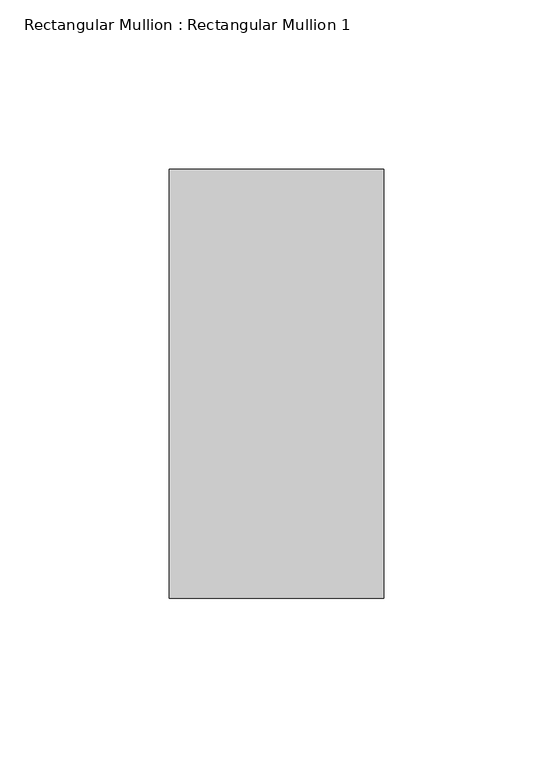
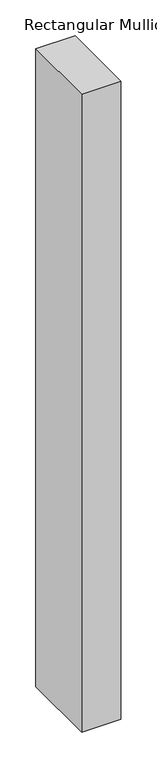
"""IFC4 building model written with IfcOpenShell, lengths in millimetres: member geometry, Rectangular Mullion : Rectangular Mullion 1."""

from ifc_helpers import new_model, si_unit, frame, origin, place, context, project, spatial, polyline, outline, extrude, source, transform, mapped, element, save


def rectangular_mullion_rectangular_mullion_1_fcad50a8(model_context):
    return source(origin(), model_context, "Body", "SweptSolid", [
        extrude(outline(polyline([(0.0, 63.5), (0.0, -63.5), (-63.5, -63.5), (-63.5, 63.5), (0.0, 63.5)])), frame((0.0, 0.0, -1084.2624997), z_axis=(0.0, 0.0, 1.0), x_axis=(1.0, 0.0, 0.0)), (0.0, 0.0, 1.0), 1084.2624997),
    ])


if __name__ == "__main__":
    model = new_model("IFC4")
    model_context = context("Model", 3, world=origin())
    ifc_project = project(units=[si_unit("LENGTHUNIT", "METRE", prefix="MILLI")], contexts=[model_context])
    site = spatial("IfcSite", under=ifc_project)
    building = spatial("IfcBuilding", under=site)
    placement = place(None, origin())
    rectangular_mullion_rectangular_mullion_1_shape = rectangular_mullion_rectangular_mullion_1_fcad50a8(model_context)
    element("IfcMember", 1, ObjectType="Rectangular Mullion : Rectangular Mullion 1", at=placement, inside=building, context=model_context, shape_type="MappedRepresentation", body=[
        mapped(rectangular_mullion_rectangular_mullion_1_shape, transform((0.0, 0.0, 0.0), x_axis=(1.0, 0.0, 0.0), y_axis=(0.0, 1.0, 0.0), z_axis=(0.0, 0.0, 1.0))),
    ])
    save(model, "model.ifc")
